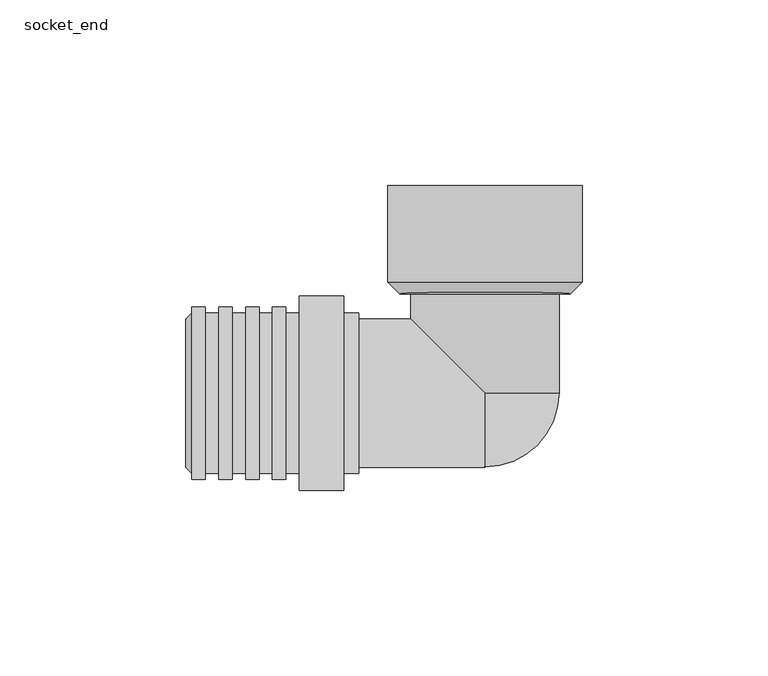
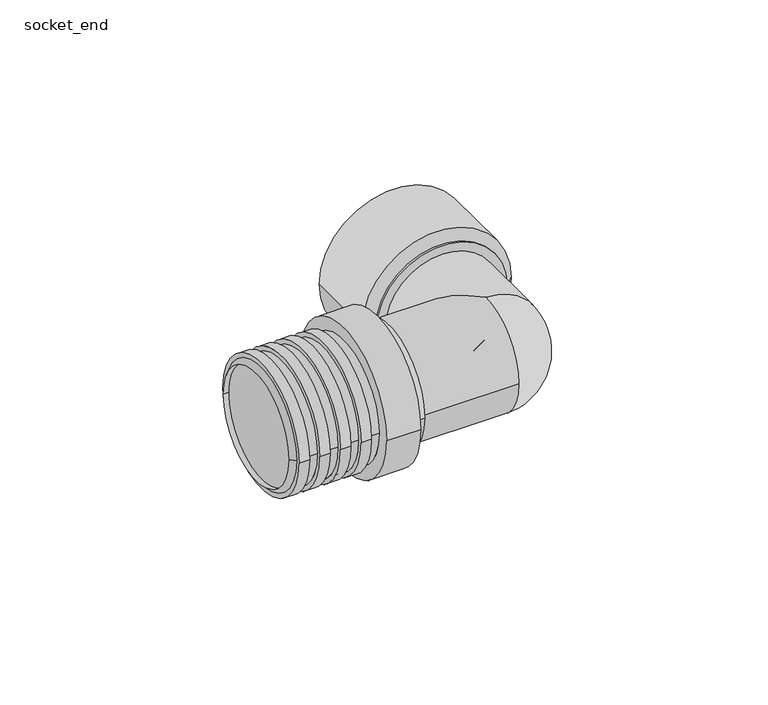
"""IFC4 building model written with IfcOpenShell, lengths in millimetres: pipe fitting geometry, Wavin SiTech+ S Siphon Bogen (multiport) : socket_end."""

from ifc_helpers import new_model, si_unit, point, frame, origin, place, context, project, spatial, polyline, circle_curve, ellipse_curve, trimmed, source, transform, mapped, element, save
from ifc_brep_helpers import plane_surface, cylinder_surface, revolved_surface, advanced_brep


def socket_end_516246a1(model_context):
    return source(origin(), model_context, "Body", "AdvancedBrep", [
        advanced_brep(
        [(-80.6568485, 20.0, 0.0), (-80.6568485, -20.0, 0.0), (-34.0, -20.0, 0.0), (-34.0, 20.0, 0.0), (-79.0, 21.6, 0.0), (-79.0, -21.6, 0.0), (-75.375, 23.2, 0.0), (-75.375, -23.2, 0.0), (-79.0, -23.2, 0.0), (-79.0, 23.2, 0.0), (-71.75, 21.6, 0.0), (-71.75, -21.6, 0.0), (-75.375, -21.6, 0.0), (-75.375, 21.6, 0.0), (-68.125, 23.2, 0.0), (-68.125, -23.2, 0.0), (-71.75, -23.2, 0.0), (-71.75, 23.2, 0.0), (-64.5, 21.6, 0.0), (-64.5, -21.6, 0.0), (-68.125, -21.6, 0.0), (-68.125, 21.6, 0.0), (-60.875, 23.2, 0.0), (-60.875, -23.2, 0.0), (-64.5, -23.2, 0.0), (-64.5, 23.2, 0.0), (-57.25, 21.6, 0.0), (-57.25, -21.6, 0.0), (-60.875, -21.6, 0.0), (-60.875, 21.6, 0.0), (-53.625, 23.2, 0.0), (-53.625, -23.2, 0.0), (-57.25, -23.2, 0.0), (-57.25, 23.2, 0.0), (-50.0, 21.6, 0.0), (-50.0, -21.6, 0.0), (-53.625, -21.6, 0.0), (-53.625, 21.6, 0.0), (-38.0, 26.2, 0.0), (-38.0, -26.2, 0.0), (-50.0, -26.2, 0.0), (-50.0, 26.2, 0.0), (-34.0, 21.6, 0.0), (-34.0, -21.6, 0.0), (-38.0, -21.6, 0.0), (-38.0, 21.6, 0.0)],
        [
            (0, 1, circle_curve(frame((-80.6568485, 0.0, 0.0), z_axis=(-1.0, 0.0, 0.0), x_axis=(0.0, -1.0, 0.0)), 20.0)),
            (1, 2),
            (2, 3, circle_curve(frame((-34.0, 0.0, 0.0), z_axis=(1.0, 0.0, 0.0), x_axis=(0.0, -1.0, 0.0)), 20.0)),
            (3, 0),
            (4, 5, circle_curve(frame((-79.0, 0.0, 0.0), z_axis=(-1.0, 0.0, 0.0), x_axis=(0.0, -1.0, 0.0)), 21.6)),
            (5, 1),
            (0, 4),
            (6, 7, circle_curve(frame((-75.375, 0.0, 0.0), z_axis=(-1.0, 0.0, 0.0), x_axis=(0.0, -1.0, 0.0)), 23.2)),
            (7, 8),
            (8, 9, circle_curve(frame((-79.0, 0.0, 0.0), z_axis=(1.0, 0.0, 0.0), x_axis=(0.0, -1.0, 0.0)), 23.2)),
            (9, 6),
            (10, 11, circle_curve(frame((-71.75, 0.0, 0.0), z_axis=(-1.0, 0.0, 0.0), x_axis=(0.0, -1.0, 0.0)), 21.6)),
            (11, 12),
            (12, 13, circle_curve(frame((-75.375, 0.0, 0.0), z_axis=(1.0, 0.0, 0.0), x_axis=(0.0, -1.0, 0.0)), 21.6)),
            (13, 10),
            (14, 15, circle_curve(frame((-68.125, 0.0, 0.0), z_axis=(-1.0, 0.0, 0.0), x_axis=(0.0, -1.0, 0.0)), 23.2)),
            (15, 16),
            (16, 17, circle_curve(frame((-71.75, 0.0, 0.0), z_axis=(1.0, 0.0, 0.0), x_axis=(0.0, -1.0, 0.0)), 23.2)),
            (17, 14),
            (18, 19, circle_curve(frame((-64.5, 0.0, 0.0), z_axis=(-1.0, 0.0, 0.0), x_axis=(0.0, -1.0, 0.0)), 21.6)),
            (19, 20),
            (20, 21, circle_curve(frame((-68.125, 0.0, 0.0), z_axis=(1.0, 0.0, 0.0), x_axis=(0.0, -1.0, 0.0)), 21.6)),
            (21, 18),
            (22, 23, circle_curve(frame((-60.875, 0.0, 0.0), z_axis=(-1.0, 0.0, 0.0), x_axis=(0.0, -1.0, 0.0)), 23.2)),
            (23, 24),
            (24, 25, circle_curve(frame((-64.5, 0.0, 0.0), z_axis=(1.0, 0.0, 0.0), x_axis=(0.0, -1.0, 0.0)), 23.2)),
            (25, 22),
            (26, 27, circle_curve(frame((-57.25, 0.0, 0.0), z_axis=(-1.0, 0.0, 0.0), x_axis=(0.0, -1.0, 0.0)), 21.6)),
            (27, 28),
            (28, 29, circle_curve(frame((-60.875, 0.0, 0.0), z_axis=(1.0, 0.0, 0.0), x_axis=(0.0, -1.0, 0.0)), 21.6)),
            (29, 26),
            (30, 31, circle_curve(frame((-53.625, 0.0, 0.0), z_axis=(-1.0, 0.0, 0.0), x_axis=(0.0, -1.0, 0.0)), 23.2)),
            (31, 32),
            (32, 33, circle_curve(frame((-57.25, 0.0, 0.0), z_axis=(1.0, 0.0, 0.0), x_axis=(0.0, -1.0, 0.0)), 23.2)),
            (33, 30),
            (34, 35, circle_curve(frame((-50.0, 0.0, 0.0), z_axis=(-1.0, 0.0, 0.0), x_axis=(0.0, -1.0, 0.0)), 21.6)),
            (35, 36),
            (36, 37, circle_curve(frame((-53.625, 0.0, 0.0), z_axis=(1.0, 0.0, 0.0), x_axis=(0.0, -1.0, 0.0)), 21.6)),
            (37, 34),
            (38, 39, circle_curve(frame((-38.0, 0.0, 0.0), z_axis=(-1.0, 0.0, 0.0), x_axis=(0.0, -1.0, 0.0)), 26.2)),
            (39, 40),
            (40, 41, circle_curve(frame((-50.0, 0.0, 0.0), z_axis=(1.0, 0.0, 0.0), x_axis=(0.0, -1.0, 0.0)), 26.2)),
            (41, 38),
            (42, 43, circle_curve(frame((-34.0, 0.0, 0.0), z_axis=(-1.0, 0.0, 0.0), x_axis=(0.0, -1.0, 0.0)), 21.6)),
            (43, 44),
            (44, 45, circle_curve(frame((-38.0, 0.0, 0.0), z_axis=(1.0, 0.0, 0.0), x_axis=(0.0, -1.0, 0.0)), 21.6)),
            (45, 42),
            (1, 0, circle_curve(frame((-80.6568485, 0.0, 0.0), z_axis=(-1.0, 0.0, 0.0), x_axis=(0.0, 1.0, 0.0)), 20.0)),
            (3, 2, circle_curve(frame((-34.0, 0.0, 0.0), z_axis=(1.0, 0.0, 0.0), x_axis=(0.0, 1.0, 0.0)), 20.0)),
            (5, 4, circle_curve(frame((-79.0, 0.0, 0.0), z_axis=(-1.0, 0.0, 0.0), x_axis=(0.0, 1.0, 0.0)), 21.6)),
            (8, 9, circle_curve(frame((-79.0, 0.0, 0.0), z_axis=(-1.0, 0.0, 0.0), x_axis=(0.0, 1.0, 0.0)), 23.2)),
            (7, 6, circle_curve(frame((-75.375, 0.0, 0.0), z_axis=(-1.0, 0.0, 0.0), x_axis=(0.0, 1.0, 0.0)), 23.2)),
            (12, 13, circle_curve(frame((-75.375, 0.0, 0.0), z_axis=(-1.0, 0.0, 0.0), x_axis=(0.0, 1.0, 0.0)), 21.6)),
            (11, 10, circle_curve(frame((-71.75, 0.0, 0.0), z_axis=(-1.0, 0.0, 0.0), x_axis=(0.0, 1.0, 0.0)), 21.6)),
            (16, 17, circle_curve(frame((-71.75, 0.0, 0.0), z_axis=(-1.0, 0.0, 0.0), x_axis=(0.0, 1.0, 0.0)), 23.2)),
            (15, 14, circle_curve(frame((-68.125, 0.0, 0.0), z_axis=(-1.0, 0.0, 0.0), x_axis=(0.0, 1.0, 0.0)), 23.2)),
            (20, 21, circle_curve(frame((-68.125, 0.0, 0.0), z_axis=(-1.0, 0.0, 0.0), x_axis=(0.0, 1.0, 0.0)), 21.6)),
            (19, 18, circle_curve(frame((-64.5, 0.0, 0.0), z_axis=(-1.0, 0.0, 0.0), x_axis=(0.0, 1.0, 0.0)), 21.6)),
            (24, 25, circle_curve(frame((-64.5, 0.0, 0.0), z_axis=(-1.0, 0.0, 0.0), x_axis=(0.0, 1.0, 0.0)), 23.2)),
            (23, 22, circle_curve(frame((-60.875, 0.0, 0.0), z_axis=(-1.0, 0.0, 0.0), x_axis=(0.0, 1.0, 0.0)), 23.2)),
            (28, 29, circle_curve(frame((-60.875, 0.0, 0.0), z_axis=(-1.0, 0.0, 0.0), x_axis=(0.0, 1.0, 0.0)), 21.6)),
            (27, 26, circle_curve(frame((-57.25, 0.0, 0.0), z_axis=(-1.0, 0.0, 0.0), x_axis=(0.0, 1.0, 0.0)), 21.6)),
            (32, 33, circle_curve(frame((-57.25, 0.0, 0.0), z_axis=(-1.0, 0.0, 0.0), x_axis=(0.0, 1.0, 0.0)), 23.2)),
            (31, 30, circle_curve(frame((-53.625, 0.0, 0.0), z_axis=(-1.0, 0.0, 0.0), x_axis=(0.0, 1.0, 0.0)), 23.2)),
            (36, 37, circle_curve(frame((-53.625, 0.0, 0.0), z_axis=(-1.0, 0.0, 0.0), x_axis=(0.0, 1.0, 0.0)), 21.6)),
            (35, 34, circle_curve(frame((-50.0, 0.0, 0.0), z_axis=(-1.0, 0.0, 0.0), x_axis=(0.0, 1.0, 0.0)), 21.6)),
            (40, 41, circle_curve(frame((-50.0, 0.0, 0.0), z_axis=(-1.0, 0.0, 0.0), x_axis=(0.0, 1.0, 0.0)), 26.2)),
            (39, 38, circle_curve(frame((-38.0, 0.0, 0.0), z_axis=(-1.0, 0.0, 0.0), x_axis=(0.0, 1.0, 0.0)), 26.2)),
            (44, 45, circle_curve(frame((-38.0, 0.0, 0.0), z_axis=(-1.0, 0.0, 0.0), x_axis=(0.0, 1.0, 0.0)), 21.6)),
            (43, 42, circle_curve(frame((-34.0, 0.0, 0.0), z_axis=(-1.0, 0.0, 0.0), x_axis=(0.0, 1.0, 0.0)), 21.6)),
        ],
        [
            revolved_surface(polyline([(-34.0, -20.0, 0.0), (-80.6568485, -20.0, 0.0)]), (-79.0, 0.0, 0.0), (1.0, 0.0, 0.0)),
            revolved_surface(polyline([(-80.6568485, -20.0, 0.0), (-79.0, -21.6, 0.0)]), (-79.0, 0.0, 0.0), (1.0, 0.0, 0.0)),
            cylinder_surface(frame((-79.0, 0.0, 0.0), z_axis=(1.0, 0.0, 0.0), x_axis=(0.0, -1.0, 0.0)), 23.2),
            cylinder_surface(frame((-79.0, 0.0, 0.0), z_axis=(1.0, 0.0, 0.0), x_axis=(0.0, -1.0, 0.0)), 21.6),
            cylinder_surface(frame((-79.0, 0.0, 0.0), z_axis=(1.0, 0.0, 0.0), x_axis=(0.0, -1.0, 0.0)), 26.2),
            revolved_surface(polyline([(-34.0, 20.0, 0.0), (-80.6568485, 20.0, 0.0)]), (-79.0, 0.0, 0.0), (1.0, 0.0, 0.0)),
            revolved_surface(polyline([(-80.6568485, 20.0, 0.0), (-79.0, 21.6, 0.0)]), (-79.0, 0.0, 0.0), (1.0, 0.0, 0.0)),
            plane_surface(frame((-79.0, 0.0, 0.0), z_axis=(-1.0, 0.0, 0.0), x_axis=(0.0, 1.0, 0.0))),
            cylinder_surface(frame((-79.0, 0.0, 0.0), z_axis=(1.0, 0.0, 0.0), x_axis=(0.0, 1.0, 0.0)), 23.2),
            plane_surface(frame((-75.375, 0.0, 0.0), z_axis=(1.0, 0.0, 0.0), x_axis=(0.0, 1.0, 0.0))),
            cylinder_surface(frame((-79.0, 0.0, 0.0), z_axis=(1.0, 0.0, 0.0), x_axis=(0.0, 1.0, 0.0)), 21.6),
            plane_surface(frame((-71.75, 0.0, 0.0), z_axis=(-1.0, 0.0, 0.0), x_axis=(0.0, 1.0, 0.0))),
            plane_surface(frame((-68.125, 0.0, 0.0), z_axis=(1.0, 0.0, 0.0), x_axis=(0.0, 1.0, 0.0))),
            plane_surface(frame((-64.5, 0.0, 0.0), z_axis=(-1.0, 0.0, 0.0), x_axis=(0.0, 1.0, 0.0))),
            plane_surface(frame((-60.875, 0.0, 0.0), z_axis=(1.0, 0.0, 0.0), x_axis=(0.0, 1.0, 0.0))),
            plane_surface(frame((-57.25, 0.0, 0.0), z_axis=(-1.0, 0.0, 0.0), x_axis=(0.0, 1.0, 0.0))),
            plane_surface(frame((-53.625, 0.0, 0.0), z_axis=(1.0, 0.0, 0.0), x_axis=(0.0, 1.0, 0.0))),
            plane_surface(frame((-50.0, 0.0, 0.0), z_axis=(-1.0, 0.0, 0.0), x_axis=(0.0, 1.0, 0.0))),
            cylinder_surface(frame((-79.0, 0.0, 0.0), z_axis=(1.0, 0.0, 0.0), x_axis=(0.0, 1.0, 0.0)), 26.2),
            plane_surface(frame((-38.0, 0.0, 0.0), z_axis=(1.0, 0.0, 0.0), x_axis=(0.0, 1.0, 0.0))),
            plane_surface(frame((-34.0, 0.0, 0.0), z_axis=(1.0, 0.0, 0.0), x_axis=(0.0, 1.0, 0.0))),
        ],
        [
            (0, [[1, 2, 3, 4]]),
            (1, [[5, 6, -1, 7]]),
            (2, [[8, 9, 10, 11]]),
            (3, [[12, 13, 14, 15]]),
            (2, [[16, 17, 18, 19]]),
            (3, [[20, 21, 22, 23]]),
            (2, [[24, 25, 26, 27]]),
            (3, [[28, 29, 30, 31]]),
            (2, [[32, 33, 34, 35]]),
            (3, [[36, 37, 38, 39]]),
            (4, [[40, 41, 42, 43]]),
            (3, [[44, 45, 46, 47]]),
            (5, [[48, -4, 49, -2]]),
            (6, [[50, -7, -48, -6]]),
            (7, [[51, -10], [-50, -5]]),
            (8, [[52, -11, -51, -9]]),
            (9, [[-52, -8], [53, -14]]),
            (10, [[54, -15, -53, -13]]),
            (11, [[55, -18], [-54, -12]]),
            (8, [[56, -19, -55, -17]]),
            (12, [[-56, -16], [57, -22]]),
            (10, [[58, -23, -57, -21]]),
            (13, [[59, -26], [-58, -20]]),
            (8, [[60, -27, -59, -25]]),
            (14, [[-60, -24], [61, -30]]),
            (10, [[62, -31, -61, -29]]),
            (15, [[63, -34], [-62, -28]]),
            (8, [[64, -35, -63, -33]]),
            (16, [[-64, -32], [65, -38]]),
            (10, [[66, -39, -65, -37]]),
            (17, [[67, -42], [-66, -36]]),
            (18, [[68, -43, -67, -41]]),
            (19, [[-68, -40], [69, -46]]),
            (10, [[70, -47, -69, -45]]),
            (20, [[-70, -44], [-49, -3]]),
        ],
    ),
        advanced_brep(
        [(23.0, 30.0, 0.0), (-23.0, 30.0, 0.0), (0.0, 30.0, 0.0), (23.0, 26.75, 0.0), (-23.0, 26.75, 0.0), (0.0, 26.75, 0.0)],
        [
            (0, 1, circle_curve(frame((0.0, 30.0, 0.0), z_axis=(0.0, 1.0, 0.0), x_axis=(-1.0000000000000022, 0.0, 0.0)), 23.0)),
            (1, 2),
            (2, 0),
            (1, 0, circle_curve(frame((0.0, 30.0, 0.0), z_axis=(0.0, 1.0, 0.0), x_axis=(-1.0000000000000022, 0.0, 0.0)), 23.0)),
            (3, 4, circle_curve(frame((0.0, 26.75, 0.0), z_axis=(0.0, 1.0, 0.0), x_axis=(-1.0000000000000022, 0.0, 0.0)), 23.0)),
            (4, 1),
            (0, 3),
            (4, 3, circle_curve(frame((0.0, 26.75, 0.0), z_axis=(0.0, 1.0, 0.0), x_axis=(-1.0000000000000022, 0.0, 0.0)), 23.0)),
            (5, 4),
            (3, 5),
        ],
        [
            plane_surface(frame((0.0, 30.0, 0.0), z_axis=(0.0, 1.0, 0.0), x_axis=(-1.0, 0.0, 0.0))),
            cylinder_surface(frame((0.0, 2030.0, 0.0), z_axis=(0.0, -1.0000000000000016, 0.0), x_axis=(-1.0000000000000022, 0.0, 0.0)), 23.0),
            plane_surface(frame((0.0, 26.75, 0.0), z_axis=(0.0, -1.0, 0.0), x_axis=(-1.0, 0.0, 0.0))),
        ],
        [
            (0, [[1, 2, 3]]),
            (0, [[4, -3, -2]]),
            (1, [[5, 6, -1, 7]]),
            (1, [[8, -7, -4, -6]]),
            (2, [[9, -5, 10]]),
            (2, [[-10, -8, -9]]),
        ],
    ),
        advanced_brep(
        [(26.25, 56.0, 0.0), (-26.25, 56.0, 0.0), (-23.0, 56.0, 0.0), (23.0, 56.0, 0.0), (26.25, 30.0, 0.0), (-26.25, 30.0, 0.0), (-23.0, 26.75, 0.0), (23.0, 26.75, 0.0)],
        [
            (0, 1, circle_curve(frame((0.0, 56.0, 0.0), z_axis=(0.0, 1.0, 0.0), x_axis=(-1.0000000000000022, 0.0, 0.0)), 26.25)),
            (1, 2),
            (2, 3, circle_curve(frame((0.0, 56.0, 0.0), z_axis=(0.0, -1.0, 0.0), x_axis=(-1.0000000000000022, 0.0, 0.0)), 23.0)),
            (3, 0),
            (1, 0, circle_curve(frame((0.0, 56.0, 0.0), z_axis=(0.0, 1.0, 0.0), x_axis=(-1.0000000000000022, 0.0, 0.0)), 26.25)),
            (3, 2, circle_curve(frame((0.0, 56.0, 0.0), z_axis=(0.0, -1.0, 0.0), x_axis=(-1.0000000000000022, 0.0, 0.0)), 23.0)),
            (4, 5, circle_curve(frame((0.0, 30.0, 0.0), z_axis=(0.0, 1.0, 0.0), x_axis=(-1.0000000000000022, 0.0, 0.0)), 26.25)),
            (5, 1),
            (0, 4),
            (5, 4, circle_curve(frame((0.0, 30.0, 0.0), z_axis=(0.0, 1.0, 0.0), x_axis=(-1.0000000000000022, 0.0, 0.0)), 26.25)),
            (2, 6),
            (6, 7, circle_curve(frame((0.0, 26.75, 0.0), z_axis=(0.0, -1.0, 0.0), x_axis=(-1.0000000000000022, 0.0, 0.0)), 23.0)),
            (7, 3),
            (7, 6, circle_curve(frame((0.0, 26.75, 0.0), z_axis=(0.0, -1.0, 0.0), x_axis=(-1.0000000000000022, 0.0, 0.0)), 23.0)),
            (6, 5),
            (4, 7),
        ],
        [
            plane_surface(frame((0.0, 56.0, 0.0), z_axis=(0.0, 1.0, 0.0), x_axis=(-1.0, 0.0, 0.0))),
            cylinder_surface(frame((0.0, 2030.0, 0.0), z_axis=(0.0, -1.0000000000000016, 0.0), x_axis=(-1.0000000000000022, 0.0, 0.0)), 26.25),
            revolved_surface(polyline([(-23.00000000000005, 26.749999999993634, 0.0), (-23.00000000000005, 55.99999999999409, 0.0)]), (0.0, 2030.0, 0.0), (0.0, -1.0000000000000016, 0.0)),
            revolved_surface(polyline([(-26.25, 30.0, 0.0), (-23.0, 26.75, 0.0)]), (0.0, 2030.0, 0.0), (0.0, -1.0000000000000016, 0.0)),
        ],
        [
            (0, [[1, 2, 3, 4]]),
            (0, [[5, -4, 6, -2]]),
            (1, [[7, 8, -1, 9]]),
            (1, [[10, -9, -5, -8]]),
            (2, [[-3, 11, 12, 13]]),
            (2, [[-6, -13, 14, -11]]),
            (3, [[-12, 15, -7, 16]]),
            (3, [[-14, -16, -10, -15]]),
        ],
    ),
        advanced_brep(
        [(-79.0, 20.0, 0.0), (-79.0, -20.0, 0.0), (0.0, -20.0, 0.0), (0.0, 0.0, 20.0), (-20.0, 20.0, 0.0), (0.0, 0.0, -20.0), (20.0, 30.0, 0.0), (-20.0, 30.0, 0.0), (20.0, 0.0, 0.0)],
        [
            (0, 1, circle_curve(frame((-79.0, 0.0, 0.0), z_axis=(-1.0, 0.0, 0.0), x_axis=(0.0, -1.0, 0.0)), 20.0)),
            (1, 0, circle_curve(frame((-79.0, 0.0, 0.0), z_axis=(-1.0, 0.0, 0.0), x_axis=(0.0, -1.0, 0.0)), 20.0)),
            (1, 2),
            (2, 3, circle_curve(frame((0.0, 0.0, 0.0), z_axis=(-1.0, 0.0, 0.0), x_axis=(0.0, -1.0, 0.0)), 20.0)),
            (3, 4, ellipse_curve(frame((0.0, 0.0, 0.0), z_axis=(-0.7071067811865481, -0.7071067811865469, 0.0), x_axis=(0.7071067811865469, -0.7071067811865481, 0.0)), 28.2842712, 20.0)),
            (4, 0),
            (4, 5, ellipse_curve(frame((0.0, 0.0, 0.0), z_axis=(-0.7071067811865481, -0.7071067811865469, 0.0), x_axis=(0.7071067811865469, -0.7071067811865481, 0.0)), 28.2842712, 20.0)),
            (5, 2, circle_curve(frame((0.0, 0.0, 0.0), z_axis=(-1.0, 0.0, 0.0), x_axis=(0.0, -1.0, 0.0)), 20.0)),
            (6, 7, circle_curve(frame((0.0, 30.0, 0.0), z_axis=(0.0, 1.0, 0.0), x_axis=(-1.0, 0.0, 0.0)), 20.0)),
            (7, 6, circle_curve(frame((0.0, 30.0, 0.0), z_axis=(0.0, 1.0, 0.0), x_axis=(-1.0, 0.0, 0.0)), 20.0)),
            (7, 4),
            (3, 8, circle_curve(frame((0.0, 0.0, 0.0), z_axis=(0.0, 1.0, 0.0), x_axis=(-1.0, 0.0, 0.0)), 20.0)),
            (8, 6),
            (8, 5, circle_curve(frame((0.0, 0.0, 0.0), z_axis=(0.0, 1.0, 0.0), x_axis=(-1.0, 0.0, 0.0)), 20.0)),
        ],
        [
            plane_surface(frame((-79.0, 0.0, 0.0), z_axis=(-1.0, 0.0, 0.0), x_axis=(0.0, 0.0, 1.0))),
            cylinder_surface(frame((0.0, 0.0, 0.0), z_axis=(1.0, 0.0, 0.0), x_axis=(0.0, -1.0, 0.0)), 20.0),
            plane_surface(frame((0.0, 30.0, 0.0), z_axis=(0.0, 1.0, 0.0), x_axis=(0.0, 0.0, 1.0))),
            cylinder_surface(frame((0.0, 0.0, 0.0), z_axis=(0.0, -1.0, 0.0), x_axis=(-1.0, 0.0, 0.0)), 20.0),
            revolved_surface(trimmed(ellipse_curve(frame((0.0, 0.0, 0.0), z_axis=(1.0, 0.0, 0.0), x_axis=(0.0, 1.0, 0.0)), 20.0, 20.0), [point((0.0, 0.0, 20.0))], [point((0.0, 0.0, -20.0))], True, "CARTESIAN"), (0.0, 0.0, 2723.9742198), (0.0, 0.0, -1.0)),
        ],
        [
            (0, [[1, 2]]),
            (1, [[-2, 3, 4, 5, 6]]),
            (1, [[-1, -6, 7, 8, -3]]),
            (2, [[9, 10]]),
            (3, [[-10, 11, -5, 12, 13]]),
            (3, [[-9, -13, 14, -7, -11]]),
            (4, [[-4, -8, -14, -12]]),
        ],
    ),
    ])


if __name__ == "__main__":
    model = new_model("IFC4")
    model_context = context("Model", 3, world=origin())
    ifc_project = project(units=[si_unit("LENGTHUNIT", "METRE", prefix="MILLI")], contexts=[model_context])
    site = spatial("IfcSite", under=ifc_project)
    building = spatial("IfcBuilding", under=site)
    placement = place(None, origin())
    socket_end_shape = socket_end_516246a1(model_context)
    element("IfcPipeFitting", 1, ObjectType="Wavin SiTech+ S Siphon Bogen (multiport) : socket_end", at=placement, inside=building, context=model_context, shape_type="MappedRepresentation", body=[
        mapped(socket_end_shape, transform((0.0, 0.0, 0.0), x_axis=(1.0, 0.0, 0.0), y_axis=(0.0, 1.0, 0.0), z_axis=(0.0, 0.0, 1.0))),
    ])
    save(model, "model.ifc")
